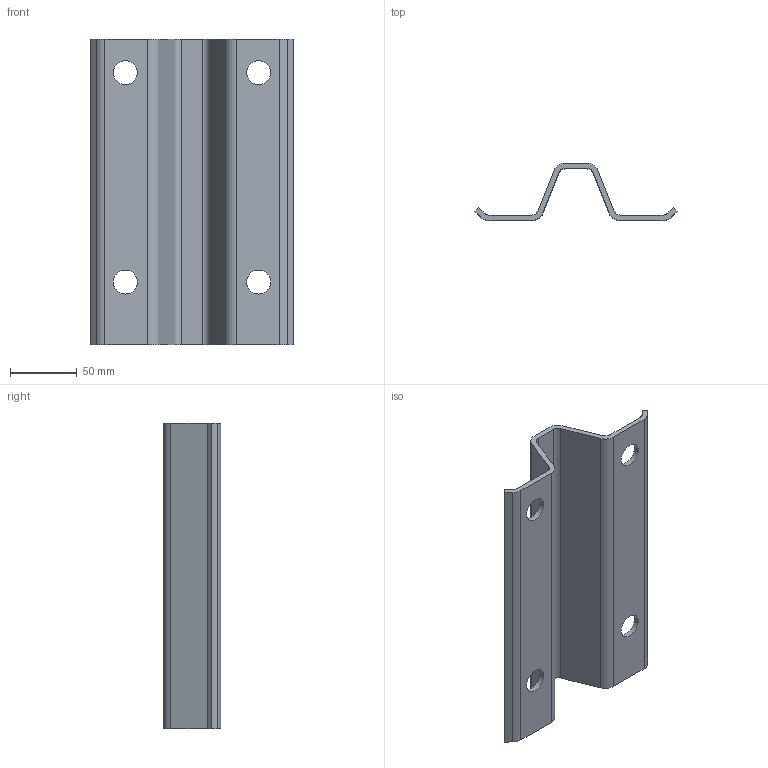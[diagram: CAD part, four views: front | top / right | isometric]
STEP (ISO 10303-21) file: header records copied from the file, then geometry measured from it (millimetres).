
FILE_DESCRIPTION(/* description */ (''),/* implementation_level */ '2;1');
FILE_NAME(/* name */ 'ZC240.stp',/* time_stamp */ '2023-07-03T11:15:56+02:00',/* author */ ('woriedl'),/* organization */ (''),/* preprocessor_version */ 'ST-DEVELOPER v19.2',/* originating_system */ 'AutoCAD Mechanical',/* authorisation */ '');
FILE_SCHEMA (('AUTOMOTIVE_DESIGN { 1 0 10303 214 3 1 1 }'));
Length unit declared in the file: centimetre
Products named in the file (1): Product
Bounding box: 151.72 x 43 x 229 mm (x, y, z)
Volume: 180799.5 mm3; surface area: 94751.1 mm2
Topology: 1 solids, 1 shells, 34 faces, 96 edges, 64 vertices
Faces by surface type: plane 18, cylinder 16
Full cylindrical faces by diameter (mm): 18 x4
Entity records: 1151 total; most frequent: DIRECTION 198, CARTESIAN_POINT 195, ORIENTED_EDGE 192, EDGE_CURVE 96, AXIS2_PLACEMENT_3D 67, LINE 64, VECTOR 64, VERTEX_POINT 64
